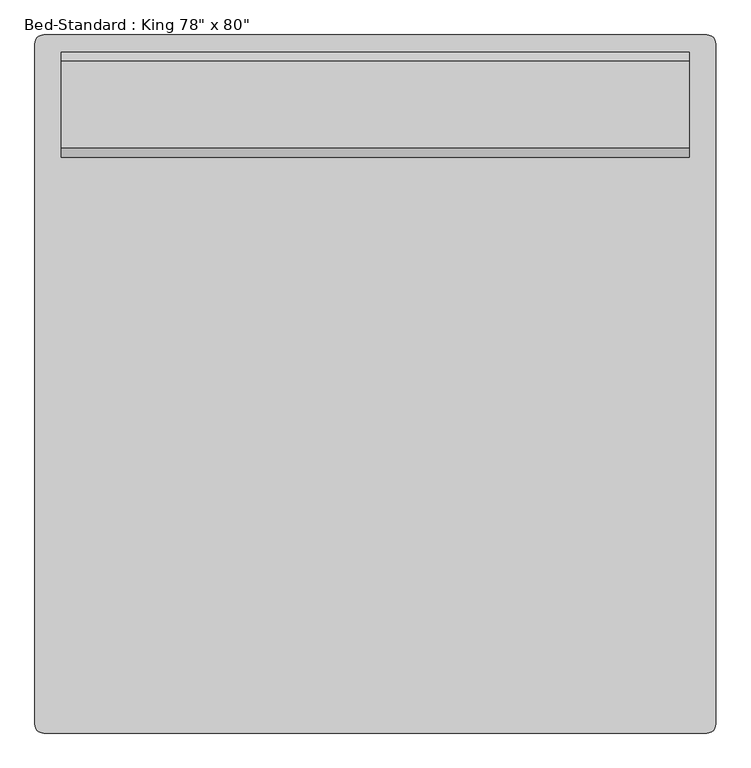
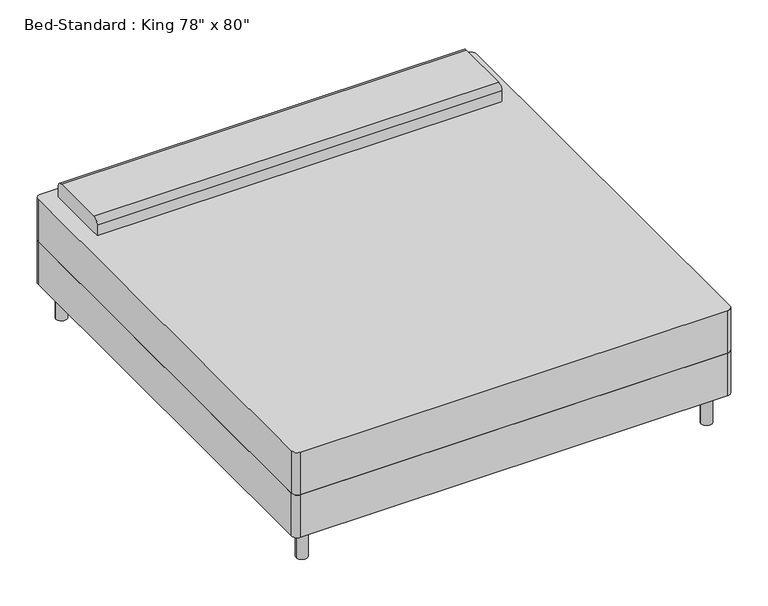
"""IFC4 building model written with IfcOpenShell, lengths in millimetres: furniture geometry."""

from ifc_helpers import new_model, si_unit, point, frame, frame_2d, origin, origin_with_axes, place, context, project, spatial, polyline, circle_curve, trimmed, segment, composite_curve, outline, extrude, source, transform, mapped, element, save


def furniture_1fc5af50(model_context):
    return source(origin(), model_context, "Body", "SweptSolid", [
        extrude(outline(composite_curve([segment(polyline([(-719.1114754, -1036.195082), (-719.1114754, 945.004918)]), True, "CONTINUOUS"), segment(trimmed(circle_curve(frame_2d((-693.7114754, 945.004918)), 25.4), [point((-719.1114754, 945.004918))], [point((-693.7114754, 970.404918))], False, "CARTESIAN"), True, "CONTINUOUS"), segment(polyline([(-693.7114754, 970.404918), (1236.6885246, 970.404918)]), True, "CONTINUOUS"), segment(trimmed(circle_curve(frame_2d((1236.6885246, 945.004918)), 25.4), [point((1236.6885246, 970.404918))], [point((1262.0885246, 945.004918))], False, "CARTESIAN"), True, "CONTINUOUS"), segment(polyline([(1262.0885246, 945.004918), (1262.0885246, -1036.195082)]), True, "CONTINUOUS"), segment(trimmed(circle_curve(frame_2d((1236.6885246, -1036.195082)), 25.4), [point((1262.0885246, -1036.195082))], [point((1236.6885246, -1061.595082))], False, "CARTESIAN"), True, "CONTINUOUS"), segment(polyline([(1236.6885246, -1061.595082), (-693.7114754, -1061.595082)]), True, "CONTINUOUS"), segment(trimmed(circle_curve(frame_2d((-693.7114754, -1036.195082)), 25.4), [point((-693.7114754, -1061.595082))], [point((-719.1114754, -1036.195082))], False, "CARTESIAN"), True, "CONTINUOUS")], self_intersect=False)), frame((0.0, 0.0, 152.4), z_axis=(0.0, 0.0, 1.0), x_axis=(1.0, 0.0, 0.0)), (0.0, 0.0, 1.0), 203.2),
        extrude(outline(composite_curve([segment(polyline([(614.804918, 558.8), (614.804918, 609.6)]), True, "CONTINUOUS"), segment(trimmed(circle_curve(frame_2d((640.204918, 609.6)), 25.4), [point((614.804918, 609.6))], [point((640.204918, 635.0))], False, "CARTESIAN"), True, "CONTINUOUS"), segment(polyline([(640.204918, 635.0), (894.204918, 635.0)]), True, "CONTINUOUS"), segment(trimmed(circle_curve(frame_2d((894.204918, 609.6)), 25.4), [point((894.204918, 635.0))], [point((919.604918, 609.6))], False, "CARTESIAN"), True, "CONTINUOUS"), segment(polyline([(919.604918, 609.6), (919.604918, 558.8), (614.804918, 558.8)]), True, "CONTINUOUS")], self_intersect=False)), frame((-642.9114754, 0.0, 0.0), z_axis=(1.0, 0.0, 0.0), x_axis=(0.0, 1.0, 0.0)), (0.0, 0.0, 1.0), 1828.8),
        extrude(outline(composite_curve([segment(trimmed(circle_curve(frame_2d((-642.9114754, 894.204918)), 25.4), [point((-668.3114754, 894.204918))], [point((-617.5114754, 894.204918))], False, "CARTESIAN"), True, "CONTINUOUS"), segment(trimmed(circle_curve(frame_2d((-642.9114754, 894.204918)), 25.4), [point((-617.5114754, 894.204918))], [point((-668.3114754, 894.204918))], False, "CARTESIAN"), True, "CONTINUOUS")], self_intersect=False)), origin_with_axes(), (0.0, 0.0, 1.0), 152.4),
        extrude(outline(composite_curve([segment(trimmed(circle_curve(frame_2d((1185.8885246, 894.204918)), 25.4), [point((1160.4885246, 894.204918))], [point((1211.2885246, 894.204918))], False, "CARTESIAN"), True, "CONTINUOUS"), segment(trimmed(circle_curve(frame_2d((1185.8885246, 894.204918)), 25.4), [point((1211.2885246, 894.204918))], [point((1160.4885246, 894.204918))], False, "CARTESIAN"), True, "CONTINUOUS")], self_intersect=False)), origin_with_axes(), (0.0, 0.0, 1.0), 152.4),
        extrude(outline(composite_curve([segment(trimmed(circle_curve(frame_2d((1185.8885246, -985.395082)), 25.4), [point((1160.4885246, -985.395082))], [point((1211.2885246, -985.395082))], False, "CARTESIAN"), True, "CONTINUOUS"), segment(trimmed(circle_curve(frame_2d((1185.8885246, -985.395082)), 25.4), [point((1211.2885246, -985.395082))], [point((1160.4885246, -985.395082))], False, "CARTESIAN"), True, "CONTINUOUS")], self_intersect=False)), origin_with_axes(), (0.0, 0.0, 1.0), 152.4),
        extrude(outline(composite_curve([segment(trimmed(circle_curve(frame_2d((-642.9114754, -985.395082)), 25.4), [point((-668.3114754, -985.395082))], [point((-617.5114754, -985.395082))], False, "CARTESIAN"), True, "CONTINUOUS"), segment(trimmed(circle_curve(frame_2d((-642.9114754, -985.395082)), 25.4), [point((-617.5114754, -985.395082))], [point((-668.3114754, -985.395082))], False, "CARTESIAN"), True, "CONTINUOUS")], self_intersect=False)), origin_with_axes(), (0.0, 0.0, 1.0), 152.4),
        extrude(outline(composite_curve([segment(polyline([(-693.7114754, 970.404918), (1236.6885246, 970.404918)]), True, "CONTINUOUS"), segment(trimmed(circle_curve(frame_2d((1236.6885246, 945.004918)), 25.4), [point((1236.6885246, 970.404918))], [point((1262.0885246, 945.004918))], False, "CARTESIAN"), True, "CONTINUOUS"), segment(polyline([(1262.0885246, 945.004918), (1262.0885246, -1036.195082)]), True, "CONTINUOUS"), segment(trimmed(circle_curve(frame_2d((1236.6885246, -1036.195082)), 25.4), [point((1262.0885246, -1036.195082))], [point((1236.6885246, -1061.595082))], False, "CARTESIAN"), True, "CONTINUOUS"), segment(polyline([(1236.6885246, -1061.595082), (-693.7114754, -1061.595082)]), True, "CONTINUOUS"), segment(trimmed(circle_curve(frame_2d((-693.7114754, -1036.195082)), 25.4), [point((-693.7114754, -1061.595082))], [point((-719.1114754, -1036.195082))], False, "CARTESIAN"), True, "CONTINUOUS"), segment(polyline([(-719.1114754, -1036.195082), (-719.1114754, 945.004918)]), True, "CONTINUOUS"), segment(trimmed(circle_curve(frame_2d((-693.7114754, 945.004918)), 25.4), [point((-719.1114754, 945.004918))], [point((-693.7114754, 970.404918))], False, "CARTESIAN"), True, "CONTINUOUS")], self_intersect=False)), frame((0.0, 0.0, 355.6), z_axis=(0.0, 0.0, 1.0), x_axis=(1.0, 0.0, 0.0)), (0.0, 0.0, 1.0), 203.2),
    ])


if __name__ == "__main__":
    model = new_model("IFC4")
    model_context = context("Model", 3, world=origin())
    ifc_project = project(units=[si_unit("LENGTHUNIT", "METRE", prefix="MILLI")], contexts=[model_context])
    site = spatial("IfcSite", under=ifc_project)
    building = spatial("IfcBuilding", under=site)
    placement = place(None, origin())
    furniture_shape = furniture_1fc5af50(model_context)
    element("IfcFurniture", 1, ObjectType="Bed-Standard : King 78\" x 80\"", at=placement, inside=building, context=model_context, shape_type="MappedRepresentation", body=[
        mapped(furniture_shape, transform((0.0, 0.0, 0.0), x_axis=(1.0, 0.0, 0.0), y_axis=(0.0, 1.0, 0.0), z_axis=(0.0, 0.0, 1.0))),
    ])
    save(model, "model.ifc")
